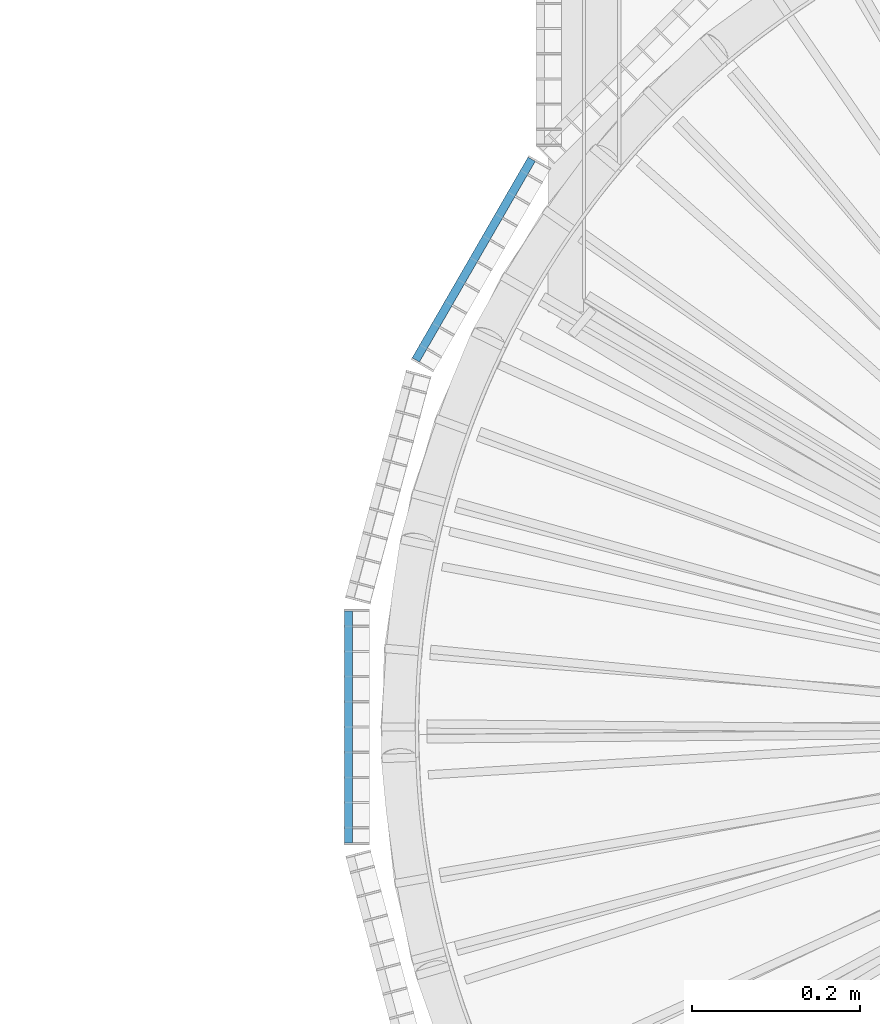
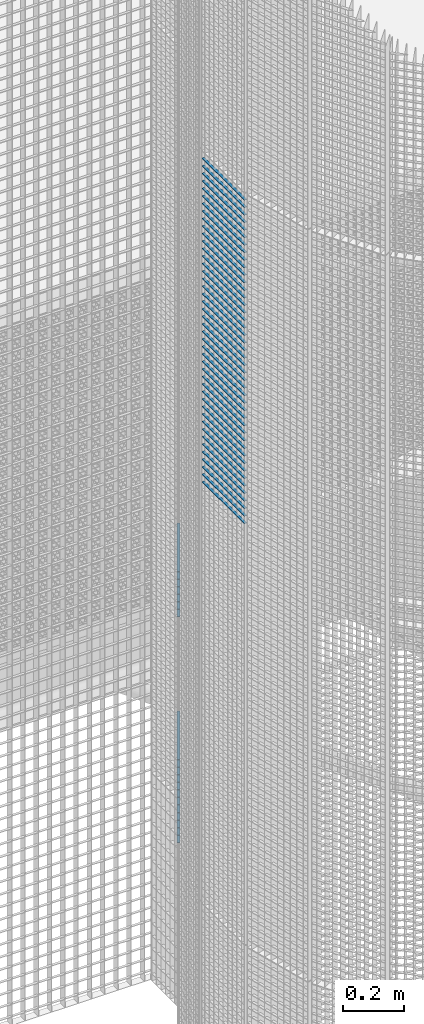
# One storey, part 204 of 1183: 63 beams, 2 elements without a shape of their own.
"""IFC2X3 building model written with IfcOpenShell, lengths in millimetres."""

from ifc_helpers import new_model, si_unit, frame, origin_with_axes, origin_2d_with_axis, place, context, subcontext, project, spatial, rectangle, extrude, material, type_object, element, aggregate, save


model = new_model("IFC2X3")

# Units and contexts
model_context = context("Model", 3, precision=1e-05, world=origin_with_axes())
body_context = subcontext(model_context, "Body", "Model", "MODEL_VIEW")
ifc_project = project(units=[si_unit("LENGTHUNIT", "METRE", prefix="MILLI"), si_unit("AREAUNIT", "SQUARE_METRE"), si_unit("VOLUMEUNIT", "CUBIC_METRE"), si_unit("MASSUNIT", "GRAM", prefix="KILO"), si_unit("TIMEUNIT", "SECOND"), si_unit("PLANEANGLEUNIT", "RADIAN"), si_unit("SOLIDANGLEUNIT", "STERADIAN"), si_unit("THERMODYNAMICTEMPERATUREUNIT", "DEGREE_CELSIUS"), si_unit("LUMINOUSINTENSITYUNIT", "LUMEN")], contexts=[model_context])

# Site, building, storey
site_placement = place(None, origin_with_axes())
site = spatial("IfcSite", under=ifc_project, at=site_placement, Name="Undefined", CompositionType="ELEMENT")
building_placement = place(site_placement, origin_with_axes())
building = spatial("IfcBuilding", under=site, at=building_placement, Name="Undefined", CompositionType="ELEMENT")
storey_placement = place(building_placement, origin_with_axes())
storey = spatial("IfcBuildingStorey", under=building, at=storey_placement, Name="Undefined", CompositionType="ELEMENT", Elevation=0.0)

# Assembly, beams
assembly_1_placement = place(storey_placement, origin_with_axes())
assembly_1 = element("IfcElementAssembly", 1, at=assembly_1_placement, inside=storey, Name="BORDURE", AssemblyPlace="NOTDEFINED", PredefinedType="NOTDEFINED")
ifc_material = material(Name="STEEL/S235JR")
beam_type = type_object("IfcBeamType", Name="PL2*10", PredefinedType="NOTDEFINED")
beam_1_placement = place(assembly_1_placement, frame((-895.303964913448, 676.248044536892, 6930.0), z_axis=(-0.866025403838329, 0.499999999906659, 0.0), x_axis=(-0.49999999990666, -0.866025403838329, 0.0)))
beam_1 = element("IfcBeam", 2, at=beam_1_placement, type_object=beam_type, material=ifc_material, Name="ENTRETOISE", context=body_context, shape_type="SweptSolid", body=[
    extrude(rectangle(XDim=2.0, YDim=10.0, at=origin_2d_with_axis()), frame((275.999999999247, 9.09494701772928e-13, 1.53210777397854e-14), z_axis=(-1.0, 0.0, 0.0), x_axis=(0.0, -1.0, 0.0)), (0.0, 0.0, 1.0), 276.0),
])
beam_2_placement = place(assembly_1_placement, frame((-895.30396491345, 676.248044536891, 6360.0), z_axis=(-0.866025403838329, 0.499999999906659, 0.0), x_axis=(-0.49999999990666, -0.866025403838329, 0.0)))
beam_2 = element("IfcBeam", 3, at=beam_2_placement, type_object=beam_type, material=ifc_material, Name="ENTRETOISE", context=body_context, shape_type="SweptSolid", body=[
    extrude(rectangle(XDim=2.0, YDim=10.0, at=origin_2d_with_axis()), frame((275.999999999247, 9.09494701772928e-13, 1.53210777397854e-14), z_axis=(-1.0, 0.0, 0.0), x_axis=(0.0, -1.0, 0.0)), (0.0, 0.0, 1.0), 276.0),
])
beam_3_placement = place(assembly_1_placement, frame((-895.303964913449, 676.248044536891, 6330.0), z_axis=(-0.866025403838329, 0.499999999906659, 0.0), x_axis=(-0.49999999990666, -0.866025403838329, 0.0)))
beam_3 = element("IfcBeam", 4, at=beam_3_placement, type_object=beam_type, material=ifc_material, Name="ENTRETOISE", context=body_context, shape_type="SweptSolid", body=[
    extrude(rectangle(XDim=2.0, YDim=10.0, at=origin_2d_with_axis()), frame((275.999999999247, 9.09494701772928e-13, 1.53210777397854e-14), z_axis=(-1.0, 0.0, 0.0), x_axis=(0.0, -1.0, 0.0)), (0.0, 0.0, 1.0), 276.0),
])
beam_4_placement = place(assembly_1_placement, frame((-895.303964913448, 676.248044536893, 6960.0), z_axis=(-0.866025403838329, 0.499999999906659, 0.0), x_axis=(-0.49999999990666, -0.866025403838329, 0.0)))
beam_4 = element("IfcBeam", 5, at=beam_4_placement, type_object=beam_type, material=ifc_material, Name="ENTRETOISE", context=body_context, shape_type="SweptSolid", body=[
    extrude(rectangle(XDim=2.0, YDim=10.0, at=origin_2d_with_axis()), frame((275.999999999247, 9.09494701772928e-13, 1.53210777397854e-14), z_axis=(-1.0, 0.0, 0.0), x_axis=(0.0, -1.0, 0.0)), (0.0, 0.0, 1.0), 276.0),
])
beam_5_placement = place(assembly_1_placement, frame((-895.303964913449, 676.248044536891, 6300.0), z_axis=(-0.866025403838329, 0.499999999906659, 0.0), x_axis=(-0.49999999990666, -0.866025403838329, 0.0)))
beam_5 = element("IfcBeam", 6, at=beam_5_placement, type_object=beam_type, material=ifc_material, Name="ENTRETOISE", context=body_context, shape_type="SweptSolid", body=[
    extrude(rectangle(XDim=2.0, YDim=10.0, at=origin_2d_with_axis()), frame((275.999999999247, 9.09494701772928e-13, 1.53210777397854e-14), z_axis=(-1.0, 0.0, 0.0), x_axis=(0.0, -1.0, 0.0)), (0.0, 0.0, 1.0), 276.0),
])
beam_6_placement = place(assembly_1_placement, frame((-895.303964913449, 676.248044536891, 6270.0), z_axis=(-0.866025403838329, 0.499999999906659, 0.0), x_axis=(-0.49999999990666, -0.866025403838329, 0.0)))
beam_6 = element("IfcBeam", 7, at=beam_6_placement, type_object=beam_type, material=ifc_material, Name="ENTRETOISE", context=body_context, shape_type="SweptSolid", body=[
    extrude(rectangle(XDim=2.0, YDim=10.0, at=origin_2d_with_axis()), frame((275.999999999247, 9.09494701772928e-13, 1.53210777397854e-14), z_axis=(-1.0, 0.0, 0.0), x_axis=(0.0, -1.0, 0.0)), (0.0, 0.0, 1.0), 276.0),
])
beam_7_placement = place(assembly_1_placement, frame((-895.303964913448, 676.248044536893, 6990.0), z_axis=(-0.866025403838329, 0.499999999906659, 0.0), x_axis=(-0.49999999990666, -0.866025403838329, 0.0)))
beam_7 = element("IfcBeam", 8, at=beam_7_placement, type_object=beam_type, material=ifc_material, Name="ENTRETOISE", context=body_context, shape_type="SweptSolid", body=[
    extrude(rectangle(XDim=2.0, YDim=10.0, at=origin_2d_with_axis()), frame((275.999999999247, 9.09494701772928e-13, 1.53210777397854e-14), z_axis=(-1.0, 0.0, 0.0), x_axis=(0.0, -1.0, 0.0)), (0.0, 0.0, 1.0), 276.0),
])
beam_8_placement = place(assembly_1_placement, frame((-895.303964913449, 676.24804453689, 6240.0), z_axis=(-0.866025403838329, 0.499999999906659, 0.0), x_axis=(-0.49999999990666, -0.866025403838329, 0.0)))
beam_8 = element("IfcBeam", 9, at=beam_8_placement, type_object=beam_type, material=ifc_material, Name="ENTRETOISE", context=body_context, shape_type="SweptSolid", body=[
    extrude(rectangle(XDim=2.0, YDim=10.0, at=origin_2d_with_axis()), frame((275.999999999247, 9.09494701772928e-13, 1.53210777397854e-14), z_axis=(-1.0, 0.0, 0.0), x_axis=(0.0, -1.0, 0.0)), (0.0, 0.0, 1.0), 276.0),
])
beam_9_placement = place(assembly_1_placement, frame((-895.303964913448, 676.248044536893, 7020.0), z_axis=(-0.866025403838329, 0.499999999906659, 0.0), x_axis=(-0.49999999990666, -0.866025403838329, 0.0)))
beam_9 = element("IfcBeam", 10, at=beam_9_placement, type_object=beam_type, material=ifc_material, Name="ENTRETOISE", context=body_context, shape_type="SweptSolid", body=[
    extrude(rectangle(XDim=2.0, YDim=10.0, at=origin_2d_with_axis()), frame((275.999999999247, 9.09494701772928e-13, 1.53210777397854e-14), z_axis=(-1.0, 0.0, 0.0), x_axis=(0.0, -1.0, 0.0)), (0.0, 0.0, 1.0), 276.0),
])
beam_10_placement = place(assembly_1_placement, frame((-895.303964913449, 676.24804453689, 6210.0), z_axis=(-0.866025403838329, 0.499999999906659, 0.0), x_axis=(-0.49999999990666, -0.866025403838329, 0.0)))
beam_10 = element("IfcBeam", 11, at=beam_10_placement, type_object=beam_type, material=ifc_material, Name="ENTRETOISE", context=body_context, shape_type="SweptSolid", body=[
    extrude(rectangle(XDim=2.0, YDim=10.0, at=origin_2d_with_axis()), frame((275.999999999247, 9.09494701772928e-13, 1.53210777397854e-14), z_axis=(-1.0, 0.0, 0.0), x_axis=(0.0, -1.0, 0.0)), (0.0, 0.0, 1.0), 276.0),
])
beam_11_placement = place(assembly_1_placement, frame((-895.30396491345, 676.24804453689, 6180.0), z_axis=(-0.866025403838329, 0.499999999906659, 0.0), x_axis=(-0.49999999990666, -0.866025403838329, 0.0)))
beam_11 = element("IfcBeam", 12, at=beam_11_placement, type_object=beam_type, material=ifc_material, Name="ENTRETOISE", context=body_context, shape_type="SweptSolid", body=[
    extrude(rectangle(XDim=2.0, YDim=10.0, at=origin_2d_with_axis()), frame((275.999999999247, 9.09494701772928e-13, 1.53210777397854e-14), z_axis=(-1.0, 0.0, 0.0), x_axis=(0.0, -1.0, 0.0)), (0.0, 0.0, 1.0), 276.0),
])
beam_12_placement = place(assembly_1_placement, frame((-895.303964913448, 676.248044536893, 7050.0), z_axis=(-0.866025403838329, 0.499999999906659, 0.0), x_axis=(-0.49999999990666, -0.866025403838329, 0.0)))
beam_12 = element("IfcBeam", 13, at=beam_12_placement, type_object=beam_type, material=ifc_material, Name="ENTRETOISE", context=body_context, shape_type="SweptSolid", body=[
    extrude(rectangle(XDim=2.0, YDim=10.0, at=origin_2d_with_axis()), frame((275.999999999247, 9.09494701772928e-13, 1.53210777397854e-14), z_axis=(-1.0, 0.0, 0.0), x_axis=(0.0, -1.0, 0.0)), (0.0, 0.0, 1.0), 276.0),
])
beam_13_placement = place(assembly_1_placement, frame((-895.30396491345, 676.24804453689, 6150.0), z_axis=(-0.866025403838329, 0.499999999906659, 0.0), x_axis=(-0.49999999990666, -0.866025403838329, 0.0)))
beam_13 = element("IfcBeam", 14, at=beam_13_placement, type_object=beam_type, material=ifc_material, Name="ENTRETOISE", context=body_context, shape_type="SweptSolid", body=[
    extrude(rectangle(XDim=2.0, YDim=10.0, at=origin_2d_with_axis()), frame((275.999999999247, 9.09494701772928e-13, 1.53210777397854e-14), z_axis=(-1.0, 0.0, 0.0), x_axis=(0.0, -1.0, 0.0)), (0.0, 0.0, 1.0), 276.0),
])
beam_14_placement = place(assembly_1_placement, frame((-895.30396491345, 676.24804453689, 6120.0), z_axis=(-0.866025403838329, 0.499999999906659, 0.0), x_axis=(-0.49999999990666, -0.866025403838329, 0.0)))
beam_14 = element("IfcBeam", 15, at=beam_14_placement, type_object=beam_type, material=ifc_material, Name="ENTRETOISE", context=body_context, shape_type="SweptSolid", body=[
    extrude(rectangle(XDim=2.0, YDim=10.0, at=origin_2d_with_axis()), frame((275.999999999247, 9.09494701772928e-13, 1.53210777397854e-14), z_axis=(-1.0, 0.0, 0.0), x_axis=(0.0, -1.0, 0.0)), (0.0, 0.0, 1.0), 276.0),
])
beam_15_placement = place(assembly_1_placement, frame((-895.303964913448, 676.248044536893, 7080.0), z_axis=(-0.866025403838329, 0.499999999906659, 0.0), x_axis=(-0.49999999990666, -0.866025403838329, 0.0)))
beam_15 = element("IfcBeam", 16, at=beam_15_placement, type_object=beam_type, material=ifc_material, Name="ENTRETOISE", context=body_context, shape_type="SweptSolid", body=[
    extrude(rectangle(XDim=2.0, YDim=10.0, at=origin_2d_with_axis()), frame((275.999999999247, 9.09494701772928e-13, 1.53210777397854e-14), z_axis=(-1.0, 0.0, 0.0), x_axis=(0.0, -1.0, 0.0)), (0.0, 0.0, 1.0), 276.0),
])
beam_16_placement = place(assembly_1_placement, frame((-895.30396491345, 676.24804453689, 6090.0), z_axis=(-0.866025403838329, 0.499999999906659, 0.0), x_axis=(-0.49999999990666, -0.866025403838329, 0.0)))
beam_16 = element("IfcBeam", 17, at=beam_16_placement, type_object=beam_type, material=ifc_material, Name="ENTRETOISE", context=body_context, shape_type="SweptSolid", body=[
    extrude(rectangle(XDim=2.0, YDim=10.0, at=origin_2d_with_axis()), frame((275.999999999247, 9.09494701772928e-13, 1.53210777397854e-14), z_axis=(-1.0, 0.0, 0.0), x_axis=(0.0, -1.0, 0.0)), (0.0, 0.0, 1.0), 276.0),
])
beam_17_placement = place(assembly_1_placement, frame((-895.30396491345, 676.24804453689, 6060.0), z_axis=(-0.866025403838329, 0.499999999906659, 0.0), x_axis=(-0.49999999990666, -0.866025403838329, 0.0)))
beam_17 = element("IfcBeam", 18, at=beam_17_placement, type_object=beam_type, material=ifc_material, Name="ENTRETOISE", context=body_context, shape_type="SweptSolid", body=[
    extrude(rectangle(XDim=2.0, YDim=10.0, at=origin_2d_with_axis()), frame((275.999999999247, 9.09494701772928e-13, 1.53210777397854e-14), z_axis=(-1.0, 0.0, 0.0), x_axis=(0.0, -1.0, 0.0)), (0.0, 0.0, 1.0), 276.0),
])
beam_18_placement = place(assembly_1_placement, frame((-895.303964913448, 676.248044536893, 7110.0), z_axis=(-0.866025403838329, 0.499999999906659, 0.0), x_axis=(-0.49999999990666, -0.866025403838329, 0.0)))
beam_18 = element("IfcBeam", 19, at=beam_18_placement, type_object=beam_type, material=ifc_material, Name="ENTRETOISE", context=body_context, shape_type="SweptSolid", body=[
    extrude(rectangle(XDim=2.0, YDim=10.0, at=origin_2d_with_axis()), frame((275.999999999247, 9.09494701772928e-13, 1.53210777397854e-14), z_axis=(-1.0, 0.0, 0.0), x_axis=(0.0, -1.0, 0.0)), (0.0, 0.0, 1.0), 276.0),
])
beam_19_placement = place(assembly_1_placement, frame((-895.30396491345, 676.248044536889, 6030.0), z_axis=(-0.866025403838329, 0.499999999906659, 0.0), x_axis=(-0.49999999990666, -0.866025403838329, 0.0)))
beam_19 = element("IfcBeam", 20, at=beam_19_placement, type_object=beam_type, material=ifc_material, Name="ENTRETOISE", context=body_context, shape_type="SweptSolid", body=[
    extrude(rectangle(XDim=2.0, YDim=10.0, at=origin_2d_with_axis()), frame((275.999999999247, 9.09494701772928e-13, 1.53210777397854e-14), z_axis=(-1.0, 0.0, 0.0), x_axis=(0.0, -1.0, 0.0)), (0.0, 0.0, 1.0), 276.0),
])
aggregate(assembly_1, [beam_1, beam_2, beam_3, beam_4, beam_5, beam_6, beam_7, beam_8, beam_9, beam_10, beam_11, beam_12, beam_13, beam_14, beam_15, beam_16, beam_17, beam_18, beam_19])

assembly_2_placement = place(storey_placement, origin_with_axes())
assembly_2 = element("IfcElementAssembly", 21, at=assembly_2_placement, inside=storey, Name="BORDURE", AssemblyPlace="NOTDEFINED", PredefinedType="NOTDEFINED")
beam_20_placement = place(assembly_2_placement, frame((-1113.47999999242, 137.996003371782, 8970.0), z_axis=(-1.0, 0.0, 0.0), x_axis=(0.0, -1.0, 0.0)))
beam_20 = element("IfcBeam", 22, at=beam_20_placement, type_object=beam_type, material=ifc_material, Name="ENTRETOISE", context=body_context, shape_type="SweptSolid", body=[
    extrude(rectangle(XDim=2.0, YDim=10.0, at=origin_2d_with_axis()), frame((275.999999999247, 9.09494701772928e-13, 1.53210777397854e-14), z_axis=(-1.0, 0.0, 0.0), x_axis=(0.0, -1.0, 0.0)), (0.0, 0.0, 1.0), 276.0),
])
beam_21_placement = place(assembly_2_placement, frame((-1113.47999999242, 137.996003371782, 8940.0), z_axis=(-1.0, 0.0, 0.0), x_axis=(0.0, -1.0, 0.0)))
beam_21 = element("IfcBeam", 23, at=beam_21_placement, type_object=beam_type, material=ifc_material, Name="ENTRETOISE", context=body_context, shape_type="SweptSolid", body=[
    extrude(rectangle(XDim=2.0, YDim=10.0, at=origin_2d_with_axis()), frame((275.999999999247, 9.09494701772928e-13, 1.53210777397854e-14), z_axis=(-1.0, 0.0, 0.0), x_axis=(0.0, -1.0, 0.0)), (0.0, 0.0, 1.0), 276.0),
])
beam_22_placement = place(assembly_2_placement, frame((-1113.47999999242, 137.996003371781, 8910.0), z_axis=(-1.0, 0.0, 0.0), x_axis=(0.0, -1.0, 0.0)))
beam_22 = element("IfcBeam", 24, at=beam_22_placement, type_object=beam_type, material=ifc_material, Name="ENTRETOISE", context=body_context, shape_type="SweptSolid", body=[
    extrude(rectangle(XDim=2.0, YDim=10.0, at=origin_2d_with_axis()), frame((275.999999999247, 9.09494701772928e-13, 1.53210777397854e-14), z_axis=(-1.0, 0.0, 0.0), x_axis=(0.0, -1.0, 0.0)), (0.0, 0.0, 1.0), 276.0),
])
beam_23_placement = place(assembly_2_placement, frame((-1113.47999999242, 137.996003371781, 8880.0), z_axis=(-1.0, 0.0, 0.0), x_axis=(0.0, -1.0, 0.0)))
beam_23 = element("IfcBeam", 25, at=beam_23_placement, type_object=beam_type, material=ifc_material, Name="ENTRETOISE", context=body_context, shape_type="SweptSolid", body=[
    extrude(rectangle(XDim=2.0, YDim=10.0, at=origin_2d_with_axis()), frame((275.999999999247, 9.09494701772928e-13, 1.53210777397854e-14), z_axis=(-1.0, 0.0, 0.0), x_axis=(0.0, -1.0, 0.0)), (0.0, 0.0, 1.0), 276.0),
])
beam_24_placement = place(assembly_2_placement, frame((-1113.47999999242, 137.996003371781, 8850.0), z_axis=(-1.0, 0.0, 0.0), x_axis=(0.0, -1.0, 0.0)))
beam_24 = element("IfcBeam", 26, at=beam_24_placement, type_object=beam_type, material=ifc_material, Name="ENTRETOISE", context=body_context, shape_type="SweptSolid", body=[
    extrude(rectangle(XDim=2.0, YDim=10.0, at=origin_2d_with_axis()), frame((275.999999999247, 9.09494701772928e-13, 1.53210777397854e-14), z_axis=(-1.0, 0.0, 0.0), x_axis=(0.0, -1.0, 0.0)), (0.0, 0.0, 1.0), 276.0),
])
beam_25_placement = place(assembly_2_placement, frame((-1113.47999999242, 137.996003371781, 8820.0), z_axis=(-1.0, 0.0, 0.0), x_axis=(0.0, -1.0, 0.0)))
beam_25 = element("IfcBeam", 27, at=beam_25_placement, type_object=beam_type, material=ifc_material, Name="ENTRETOISE", context=body_context, shape_type="SweptSolid", body=[
    extrude(rectangle(XDim=2.0, YDim=10.0, at=origin_2d_with_axis()), frame((275.999999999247, 9.09494701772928e-13, 1.53210777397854e-14), z_axis=(-1.0, 0.0, 0.0), x_axis=(0.0, -1.0, 0.0)), (0.0, 0.0, 1.0), 276.0),
])
beam_26_placement = place(assembly_2_placement, frame((-1113.47999999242, 137.996003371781, 8790.0), z_axis=(-1.0, 0.0, 0.0), x_axis=(0.0, -1.0, 0.0)))
beam_26 = element("IfcBeam", 28, at=beam_26_placement, type_object=beam_type, material=ifc_material, Name="ENTRETOISE", context=body_context, shape_type="SweptSolid", body=[
    extrude(rectangle(XDim=2.0, YDim=10.0, at=origin_2d_with_axis()), frame((275.999999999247, 9.09494701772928e-13, 1.53210777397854e-14), z_axis=(-1.0, 0.0, 0.0), x_axis=(0.0, -1.0, 0.0)), (0.0, 0.0, 1.0), 276.0),
])
beam_27_placement = place(assembly_2_placement, frame((-1113.47999999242, 137.996003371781, 8760.0), z_axis=(-1.0, 0.0, 0.0), x_axis=(0.0, -1.0, 0.0)))
beam_27 = element("IfcBeam", 29, at=beam_27_placement, type_object=beam_type, material=ifc_material, Name="ENTRETOISE", context=body_context, shape_type="SweptSolid", body=[
    extrude(rectangle(XDim=2.0, YDim=10.0, at=origin_2d_with_axis()), frame((275.999999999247, 9.09494701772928e-13, 1.53210777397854e-14), z_axis=(-1.0, 0.0, 0.0), x_axis=(0.0, -1.0, 0.0)), (0.0, 0.0, 1.0), 276.0),
])
beam_28_placement = place(assembly_2_placement, frame((-1113.47999999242, 137.996003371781, 8730.0), z_axis=(-1.0, 0.0, 0.0), x_axis=(0.0, -1.0, 0.0)))
beam_28 = element("IfcBeam", 30, at=beam_28_placement, type_object=beam_type, material=ifc_material, Name="ENTRETOISE", context=body_context, shape_type="SweptSolid", body=[
    extrude(rectangle(XDim=2.0, YDim=10.0, at=origin_2d_with_axis()), frame((275.999999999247, 9.09494701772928e-13, 1.53210777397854e-14), z_axis=(-1.0, 0.0, 0.0), x_axis=(0.0, -1.0, 0.0)), (0.0, 0.0, 1.0), 276.0),
])
beam_29_placement = place(assembly_2_placement, frame((-1113.47999999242, 137.996003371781, 8700.0), z_axis=(-1.0, 0.0, 0.0), x_axis=(0.0, -1.0, 0.0)))
beam_29 = element("IfcBeam", 31, at=beam_29_placement, type_object=beam_type, material=ifc_material, Name="ENTRETOISE", context=body_context, shape_type="SweptSolid", body=[
    extrude(rectangle(XDim=2.0, YDim=10.0, at=origin_2d_with_axis()), frame((275.999999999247, 9.09494701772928e-13, 1.53210777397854e-14), z_axis=(-1.0, 0.0, 0.0), x_axis=(0.0, -1.0, 0.0)), (0.0, 0.0, 1.0), 276.0),
])
beam_30_placement = place(assembly_2_placement, frame((-1113.47999999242, 137.996003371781, 8670.0), z_axis=(-1.0, 0.0, 0.0), x_axis=(0.0, -1.0, 0.0)))
beam_30 = element("IfcBeam", 32, at=beam_30_placement, type_object=beam_type, material=ifc_material, Name="ENTRETOISE", context=body_context, shape_type="SweptSolid", body=[
    extrude(rectangle(XDim=2.0, YDim=10.0, at=origin_2d_with_axis()), frame((275.999999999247, 9.09494701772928e-13, 1.53210777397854e-14), z_axis=(-1.0, 0.0, 0.0), x_axis=(0.0, -1.0, 0.0)), (0.0, 0.0, 1.0), 276.0),
])
beam_31_placement = place(assembly_2_placement, frame((-1113.47999999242, 137.99600337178, 8640.0), z_axis=(-1.0, 0.0, 0.0), x_axis=(0.0, -1.0, 0.0)))
beam_31 = element("IfcBeam", 33, at=beam_31_placement, type_object=beam_type, material=ifc_material, Name="ENTRETOISE", context=body_context, shape_type="SweptSolid", body=[
    extrude(rectangle(XDim=2.0, YDim=10.0, at=origin_2d_with_axis()), frame((275.999999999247, 9.09494701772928e-13, 1.53210777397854e-14), z_axis=(-1.0, 0.0, 0.0), x_axis=(0.0, -1.0, 0.0)), (0.0, 0.0, 1.0), 276.0),
])
beam_32_placement = place(assembly_2_placement, frame((-1113.47999999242, 137.99600337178, 8610.0), z_axis=(-1.0, 0.0, 0.0), x_axis=(0.0, -1.0, 0.0)))
beam_32 = element("IfcBeam", 34, at=beam_32_placement, type_object=beam_type, material=ifc_material, Name="ENTRETOISE", context=body_context, shape_type="SweptSolid", body=[
    extrude(rectangle(XDim=2.0, YDim=10.0, at=origin_2d_with_axis()), frame((275.999999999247, 9.09494701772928e-13, 1.53210777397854e-14), z_axis=(-1.0, 0.0, 0.0), x_axis=(0.0, -1.0, 0.0)), (0.0, 0.0, 1.0), 276.0),
])
beam_33_placement = place(assembly_2_placement, frame((-1113.47999999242, 137.99600337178, 8580.0), z_axis=(-1.0, 0.0, 0.0), x_axis=(0.0, -1.0, 0.0)))
beam_33 = element("IfcBeam", 35, at=beam_33_placement, type_object=beam_type, material=ifc_material, Name="ENTRETOISE", context=body_context, shape_type="SweptSolid", body=[
    extrude(rectangle(XDim=2.0, YDim=10.0, at=origin_2d_with_axis()), frame((275.999999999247, 9.09494701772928e-13, 1.53210777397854e-14), z_axis=(-1.0, 0.0, 0.0), x_axis=(0.0, -1.0, 0.0)), (0.0, 0.0, 1.0), 276.0),
])
beam_34_placement = place(assembly_2_placement, frame((-1113.47999999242, 137.99600337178, 8550.0), z_axis=(-1.0, 0.0, 0.0), x_axis=(0.0, -1.0, 0.0)))
beam_34 = element("IfcBeam", 36, at=beam_34_placement, type_object=beam_type, material=ifc_material, Name="ENTRETOISE", context=body_context, shape_type="SweptSolid", body=[
    extrude(rectangle(XDim=2.0, YDim=10.0, at=origin_2d_with_axis()), frame((275.999999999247, 9.09494701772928e-13, 1.53210777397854e-14), z_axis=(-1.0, 0.0, 0.0), x_axis=(0.0, -1.0, 0.0)), (0.0, 0.0, 1.0), 276.0),
])
beam_35_placement = place(assembly_2_placement, frame((-1113.47999999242, 137.99600337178, 8520.0), z_axis=(-1.0, 0.0, 0.0), x_axis=(0.0, -1.0, 0.0)))
beam_35 = element("IfcBeam", 37, at=beam_35_placement, type_object=beam_type, material=ifc_material, Name="ENTRETOISE", context=body_context, shape_type="SweptSolid", body=[
    extrude(rectangle(XDim=2.0, YDim=10.0, at=origin_2d_with_axis()), frame((275.999999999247, 9.09494701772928e-13, 1.53210777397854e-14), z_axis=(-1.0, 0.0, 0.0), x_axis=(0.0, -1.0, 0.0)), (0.0, 0.0, 1.0), 276.0),
])
beam_36_placement = place(assembly_2_placement, frame((-1113.47999999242, 137.99600337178, 8490.0), z_axis=(-1.0, 0.0, 0.0), x_axis=(0.0, -1.0, 0.0)))
beam_36 = element("IfcBeam", 38, at=beam_36_placement, type_object=beam_type, material=ifc_material, Name="ENTRETOISE", context=body_context, shape_type="SweptSolid", body=[
    extrude(rectangle(XDim=2.0, YDim=10.0, at=origin_2d_with_axis()), frame((275.999999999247, 9.09494701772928e-13, 1.53210777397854e-14), z_axis=(-1.0, 0.0, 0.0), x_axis=(0.0, -1.0, 0.0)), (0.0, 0.0, 1.0), 276.0),
])
beam_37_placement = place(assembly_2_placement, frame((-1113.47999999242, 137.99600337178, 8460.0), z_axis=(-1.0, 0.0, 0.0), x_axis=(0.0, -1.0, 0.0)))
beam_37 = element("IfcBeam", 39, at=beam_37_placement, type_object=beam_type, material=ifc_material, Name="ENTRETOISE", context=body_context, shape_type="SweptSolid", body=[
    extrude(rectangle(XDim=2.0, YDim=10.0, at=origin_2d_with_axis()), frame((275.999999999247, 9.09494701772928e-13, 1.53210777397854e-14), z_axis=(-1.0, 0.0, 0.0), x_axis=(0.0, -1.0, 0.0)), (0.0, 0.0, 1.0), 276.0),
])
beam_38_placement = place(assembly_2_placement, frame((-1113.47999999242, 137.99600337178, 8430.0), z_axis=(-1.0, 0.0, 0.0), x_axis=(0.0, -1.0, 0.0)))
beam_38 = element("IfcBeam", 40, at=beam_38_placement, type_object=beam_type, material=ifc_material, Name="ENTRETOISE", context=body_context, shape_type="SweptSolid", body=[
    extrude(rectangle(XDim=2.0, YDim=10.0, at=origin_2d_with_axis()), frame((275.999999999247, 9.09494701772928e-13, 1.53210777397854e-14), z_axis=(-1.0, 0.0, 0.0), x_axis=(0.0, -1.0, 0.0)), (0.0, 0.0, 1.0), 276.0),
])
beam_39_placement = place(assembly_2_placement, frame((-1113.47999999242, 137.99600337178, 8400.0), z_axis=(-1.0, 0.0, 0.0), x_axis=(0.0, -1.0, 0.0)))
beam_39 = element("IfcBeam", 41, at=beam_39_placement, type_object=beam_type, material=ifc_material, Name="ENTRETOISE", context=body_context, shape_type="SweptSolid", body=[
    extrude(rectangle(XDim=2.0, YDim=10.0, at=origin_2d_with_axis()), frame((275.999999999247, 9.09494701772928e-13, 1.53210777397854e-14), z_axis=(-1.0, 0.0, 0.0), x_axis=(0.0, -1.0, 0.0)), (0.0, 0.0, 1.0), 276.0),
])
beam_40_placement = place(assembly_2_placement, frame((-1113.47999999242, 137.996003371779, 8370.0), z_axis=(-1.0, 0.0, 0.0), x_axis=(0.0, -1.0, 0.0)))
beam_40 = element("IfcBeam", 42, at=beam_40_placement, type_object=beam_type, material=ifc_material, Name="ENTRETOISE", context=body_context, shape_type="SweptSolid", body=[
    extrude(rectangle(XDim=2.0, YDim=10.0, at=origin_2d_with_axis()), frame((275.999999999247, 9.09494701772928e-13, 1.53210777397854e-14), z_axis=(-1.0, 0.0, 0.0), x_axis=(0.0, -1.0, 0.0)), (0.0, 0.0, 1.0), 276.0),
])
beam_41_placement = place(assembly_2_placement, frame((-1113.47999999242, 137.996003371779, 8340.0), z_axis=(-1.0, 0.0, 0.0), x_axis=(0.0, -1.0, 0.0)))
beam_41 = element("IfcBeam", 43, at=beam_41_placement, type_object=beam_type, material=ifc_material, Name="ENTRETOISE", context=body_context, shape_type="SweptSolid", body=[
    extrude(rectangle(XDim=2.0, YDim=10.0, at=origin_2d_with_axis()), frame((275.999999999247, 9.09494701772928e-13, 1.53210777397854e-14), z_axis=(-1.0, 0.0, 0.0), x_axis=(0.0, -1.0, 0.0)), (0.0, 0.0, 1.0), 276.0),
])
beam_42_placement = place(assembly_2_placement, frame((-1113.47999999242, 137.996003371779, 8310.0), z_axis=(-1.0, 0.0, 0.0), x_axis=(0.0, -1.0, 0.0)))
beam_42 = element("IfcBeam", 44, at=beam_42_placement, type_object=beam_type, material=ifc_material, Name="ENTRETOISE", context=body_context, shape_type="SweptSolid", body=[
    extrude(rectangle(XDim=2.0, YDim=10.0, at=origin_2d_with_axis()), frame((275.999999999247, 9.09494701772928e-13, 1.53210777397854e-14), z_axis=(-1.0, 0.0, 0.0), x_axis=(0.0, -1.0, 0.0)), (0.0, 0.0, 1.0), 276.0),
])
beam_43_placement = place(assembly_2_placement, frame((-1113.47999999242, 137.996003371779, 8280.0), z_axis=(-1.0, 0.0, 0.0), x_axis=(0.0, -1.0, 0.0)))
beam_43 = element("IfcBeam", 45, at=beam_43_placement, type_object=beam_type, material=ifc_material, Name="ENTRETOISE", context=body_context, shape_type="SweptSolid", body=[
    extrude(rectangle(XDim=2.0, YDim=10.0, at=origin_2d_with_axis()), frame((275.999999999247, 9.09494701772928e-13, 1.53210777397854e-14), z_axis=(-1.0, 0.0, 0.0), x_axis=(0.0, -1.0, 0.0)), (0.0, 0.0, 1.0), 276.0),
])
beam_44_placement = place(assembly_2_placement, frame((-1113.47999999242, 137.996003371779, 8250.0), z_axis=(-1.0, 0.0, 0.0), x_axis=(0.0, -1.0, 0.0)))
beam_44 = element("IfcBeam", 46, at=beam_44_placement, type_object=beam_type, material=ifc_material, Name="ENTRETOISE", context=body_context, shape_type="SweptSolid", body=[
    extrude(rectangle(XDim=2.0, YDim=10.0, at=origin_2d_with_axis()), frame((275.999999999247, 9.09494701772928e-13, 1.53210777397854e-14), z_axis=(-1.0, 0.0, 0.0), x_axis=(0.0, -1.0, 0.0)), (0.0, 0.0, 1.0), 276.0),
])
beam_45_placement = place(assembly_2_placement, frame((-1113.47999999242, 137.996003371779, 8220.0), z_axis=(-1.0, 0.0, 0.0), x_axis=(0.0, -1.0, 0.0)))
beam_45 = element("IfcBeam", 47, at=beam_45_placement, type_object=beam_type, material=ifc_material, Name="ENTRETOISE", context=body_context, shape_type="SweptSolid", body=[
    extrude(rectangle(XDim=2.0, YDim=10.0, at=origin_2d_with_axis()), frame((275.999999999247, 9.09494701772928e-13, 1.53210777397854e-14), z_axis=(-1.0, 0.0, 0.0), x_axis=(0.0, -1.0, 0.0)), (0.0, 0.0, 1.0), 276.0),
])
beam_46_placement = place(assembly_2_placement, frame((-1113.47999999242, 137.996003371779, 8190.0), z_axis=(-1.0, 0.0, 0.0), x_axis=(0.0, -1.0, 0.0)))
beam_46 = element("IfcBeam", 48, at=beam_46_placement, type_object=beam_type, material=ifc_material, Name="ENTRETOISE", context=body_context, shape_type="SweptSolid", body=[
    extrude(rectangle(XDim=2.0, YDim=10.0, at=origin_2d_with_axis()), frame((275.999999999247, 9.09494701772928e-13, 1.53210777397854e-14), z_axis=(-1.0, 0.0, 0.0), x_axis=(0.0, -1.0, 0.0)), (0.0, 0.0, 1.0), 276.0),
])
beam_47_placement = place(assembly_2_placement, frame((-1113.47999999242, 137.996003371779, 8160.0), z_axis=(-1.0, 0.0, 0.0), x_axis=(0.0, -1.0, 0.0)))
beam_47 = element("IfcBeam", 49, at=beam_47_placement, type_object=beam_type, material=ifc_material, Name="ENTRETOISE", context=body_context, shape_type="SweptSolid", body=[
    extrude(rectangle(XDim=2.0, YDim=10.0, at=origin_2d_with_axis()), frame((275.999999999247, 9.09494701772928e-13, 1.53210777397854e-14), z_axis=(-1.0, 0.0, 0.0), x_axis=(0.0, -1.0, 0.0)), (0.0, 0.0, 1.0), 276.0),
])
beam_48_placement = place(assembly_2_placement, frame((-1113.47999999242, 137.996003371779, 8130.0), z_axis=(-1.0, 0.0, 0.0), x_axis=(0.0, -1.0, 0.0)))
beam_48 = element("IfcBeam", 50, at=beam_48_placement, type_object=beam_type, material=ifc_material, Name="ENTRETOISE", context=body_context, shape_type="SweptSolid", body=[
    extrude(rectangle(XDim=2.0, YDim=10.0, at=origin_2d_with_axis()), frame((275.999999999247, 9.09494701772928e-13, 1.53210777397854e-14), z_axis=(-1.0, 0.0, 0.0), x_axis=(0.0, -1.0, 0.0)), (0.0, 0.0, 1.0), 276.0),
])
beam_49_placement = place(assembly_2_placement, frame((-1113.47999999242, 137.996003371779, 8100.0), z_axis=(-1.0, 0.0, 0.0), x_axis=(0.0, -1.0, 0.0)))
beam_49 = element("IfcBeam", 51, at=beam_49_placement, type_object=beam_type, material=ifc_material, Name="ENTRETOISE", context=body_context, shape_type="SweptSolid", body=[
    extrude(rectangle(XDim=2.0, YDim=10.0, at=origin_2d_with_axis()), frame((275.999999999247, 9.09494701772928e-13, 1.53210777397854e-14), z_axis=(-1.0, 0.0, 0.0), x_axis=(0.0, -1.0, 0.0)), (0.0, 0.0, 1.0), 276.0),
])
beam_50_placement = place(assembly_2_placement, frame((-1113.47999999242, 137.996003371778, 8070.0), z_axis=(-1.0, 0.0, 0.0), x_axis=(0.0, -1.0, 0.0)))
beam_50 = element("IfcBeam", 52, at=beam_50_placement, type_object=beam_type, material=ifc_material, Name="ENTRETOISE", context=body_context, shape_type="SweptSolid", body=[
    extrude(rectangle(XDim=2.0, YDim=10.0, at=origin_2d_with_axis()), frame((275.999999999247, 9.09494701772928e-13, 1.53210777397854e-14), z_axis=(-1.0, 0.0, 0.0), x_axis=(0.0, -1.0, 0.0)), (0.0, 0.0, 1.0), 276.0),
])
beam_51_placement = place(assembly_2_placement, frame((-1113.47999999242, 137.996003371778, 8040.0), z_axis=(-1.0, 0.0, 0.0), x_axis=(0.0, -1.0, 0.0)))
beam_51 = element("IfcBeam", 53, at=beam_51_placement, type_object=beam_type, material=ifc_material, Name="ENTRETOISE", context=body_context, shape_type="SweptSolid", body=[
    extrude(rectangle(XDim=2.0, YDim=10.0, at=origin_2d_with_axis()), frame((275.999999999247, 9.09494701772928e-13, 1.53210777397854e-14), z_axis=(-1.0, 0.0, 0.0), x_axis=(0.0, -1.0, 0.0)), (0.0, 0.0, 1.0), 276.0),
])
beam_52_placement = place(assembly_2_placement, frame((-1113.47999999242, 137.996003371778, 8010.0), z_axis=(-1.0, 0.0, 0.0), x_axis=(0.0, -1.0, 0.0)))
beam_52 = element("IfcBeam", 54, at=beam_52_placement, type_object=beam_type, material=ifc_material, Name="ENTRETOISE", context=body_context, shape_type="SweptSolid", body=[
    extrude(rectangle(XDim=2.0, YDim=10.0, at=origin_2d_with_axis()), frame((275.999999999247, 9.09494701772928e-13, 1.53210777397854e-14), z_axis=(-1.0, 0.0, 0.0), x_axis=(0.0, -1.0, 0.0)), (0.0, 0.0, 1.0), 276.0),
])
beam_53_placement = place(assembly_2_placement, frame((-1113.47999999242, 137.996003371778, 7980.0), z_axis=(-1.0, 0.0, 0.0), x_axis=(0.0, -1.0, 0.0)))
beam_53 = element("IfcBeam", 55, at=beam_53_placement, type_object=beam_type, material=ifc_material, Name="ENTRETOISE", context=body_context, shape_type="SweptSolid", body=[
    extrude(rectangle(XDim=2.0, YDim=10.0, at=origin_2d_with_axis()), frame((275.999999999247, 9.09494701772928e-13, 1.53210777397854e-14), z_axis=(-1.0, 0.0, 0.0), x_axis=(0.0, -1.0, 0.0)), (0.0, 0.0, 1.0), 276.0),
])
beam_54_placement = place(assembly_2_placement, frame((-1113.47999999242, 137.996003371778, 7950.0), z_axis=(-1.0, 0.0, 0.0), x_axis=(0.0, -1.0, 0.0)))
beam_54 = element("IfcBeam", 56, at=beam_54_placement, type_object=beam_type, material=ifc_material, Name="ENTRETOISE", context=body_context, shape_type="SweptSolid", body=[
    extrude(rectangle(XDim=2.0, YDim=10.0, at=origin_2d_with_axis()), frame((275.999999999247, 9.09494701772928e-13, 1.53210777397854e-14), z_axis=(-1.0, 0.0, 0.0), x_axis=(0.0, -1.0, 0.0)), (0.0, 0.0, 1.0), 276.0),
])
beam_55_placement = place(assembly_2_placement, frame((-1113.47999999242, 137.996003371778, 7920.0), z_axis=(-1.0, 0.0, 0.0), x_axis=(0.0, -1.0, 0.0)))
beam_55 = element("IfcBeam", 57, at=beam_55_placement, type_object=beam_type, material=ifc_material, Name="ENTRETOISE", context=body_context, shape_type="SweptSolid", body=[
    extrude(rectangle(XDim=2.0, YDim=10.0, at=origin_2d_with_axis()), frame((275.999999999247, 9.09494701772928e-13, 1.53210777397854e-14), z_axis=(-1.0, 0.0, 0.0), x_axis=(0.0, -1.0, 0.0)), (0.0, 0.0, 1.0), 276.0),
])
beam_56_placement = place(assembly_2_placement, frame((-1113.47999999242, 137.996003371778, 7890.0), z_axis=(-1.0, 0.0, 0.0), x_axis=(0.0, -1.0, 0.0)))
beam_56 = element("IfcBeam", 58, at=beam_56_placement, type_object=beam_type, material=ifc_material, Name="ENTRETOISE", context=body_context, shape_type="SweptSolid", body=[
    extrude(rectangle(XDim=2.0, YDim=10.0, at=origin_2d_with_axis()), frame((275.999999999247, 9.09494701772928e-13, 1.53210777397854e-14), z_axis=(-1.0, 0.0, 0.0), x_axis=(0.0, -1.0, 0.0)), (0.0, 0.0, 1.0), 276.0),
])
beam_57_placement = place(assembly_2_placement, frame((-1113.47999999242, 137.996003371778, 7860.0), z_axis=(-1.0, 0.0, 0.0), x_axis=(0.0, -1.0, 0.0)))
beam_57 = element("IfcBeam", 59, at=beam_57_placement, type_object=beam_type, material=ifc_material, Name="ENTRETOISE", context=body_context, shape_type="SweptSolid", body=[
    extrude(rectangle(XDim=2.0, YDim=10.0, at=origin_2d_with_axis()), frame((275.999999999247, 9.09494701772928e-13, 1.53210777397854e-14), z_axis=(-1.0, 0.0, 0.0), x_axis=(0.0, -1.0, 0.0)), (0.0, 0.0, 1.0), 276.0),
])
beam_58_placement = place(assembly_2_placement, frame((-1113.47999999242, 137.996003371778, 7830.0), z_axis=(-1.0, 0.0, 0.0), x_axis=(0.0, -1.0, 0.0)))
beam_58 = element("IfcBeam", 60, at=beam_58_placement, type_object=beam_type, material=ifc_material, Name="ENTRETOISE", context=body_context, shape_type="SweptSolid", body=[
    extrude(rectangle(XDim=2.0, YDim=10.0, at=origin_2d_with_axis()), frame((275.999999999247, 9.09494701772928e-13, 1.53210777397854e-14), z_axis=(-1.0, 0.0, 0.0), x_axis=(0.0, -1.0, 0.0)), (0.0, 0.0, 1.0), 276.0),
])
beam_59_placement = place(assembly_2_placement, frame((-1113.47999999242, 137.996003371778, 7800.0), z_axis=(-1.0, 0.0, 0.0), x_axis=(0.0, -1.0, 0.0)))
beam_59 = element("IfcBeam", 61, at=beam_59_placement, type_object=beam_type, material=ifc_material, Name="ENTRETOISE", context=body_context, shape_type="SweptSolid", body=[
    extrude(rectangle(XDim=2.0, YDim=10.0, at=origin_2d_with_axis()), frame((275.999999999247, 9.09494701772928e-13, 1.53210777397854e-14), z_axis=(-1.0, 0.0, 0.0), x_axis=(0.0, -1.0, 0.0)), (0.0, 0.0, 1.0), 276.0),
])
beam_60_placement = place(assembly_2_placement, frame((-1113.47999999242, 137.996003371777, 7770.0), z_axis=(-1.0, 0.0, 0.0), x_axis=(0.0, -1.0, 0.0)))
beam_60 = element("IfcBeam", 62, at=beam_60_placement, type_object=beam_type, material=ifc_material, Name="ENTRETOISE", context=body_context, shape_type="SweptSolid", body=[
    extrude(rectangle(XDim=2.0, YDim=10.0, at=origin_2d_with_axis()), frame((275.999999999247, 9.09494701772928e-13, 1.53210777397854e-14), z_axis=(-1.0, 0.0, 0.0), x_axis=(0.0, -1.0, 0.0)), (0.0, 0.0, 1.0), 276.0),
])
beam_61_placement = place(assembly_2_placement, frame((-1113.47999999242, 137.996003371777, 7740.0), z_axis=(-1.0, 0.0, 0.0), x_axis=(0.0, -1.0, 0.0)))
beam_61 = element("IfcBeam", 63, at=beam_61_placement, type_object=beam_type, material=ifc_material, Name="ENTRETOISE", context=body_context, shape_type="SweptSolid", body=[
    extrude(rectangle(XDim=2.0, YDim=10.0, at=origin_2d_with_axis()), frame((275.999999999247, 9.09494701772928e-13, 1.53210777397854e-14), z_axis=(-1.0, 0.0, 0.0), x_axis=(0.0, -1.0, 0.0)), (0.0, 0.0, 1.0), 276.0),
])
beam_62_placement = place(assembly_2_placement, frame((-1113.47999999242, 137.996003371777, 7710.0), z_axis=(-1.0, 0.0, 0.0), x_axis=(0.0, -1.0, 0.0)))
beam_62 = element("IfcBeam", 64, at=beam_62_placement, type_object=beam_type, material=ifc_material, Name="ENTRETOISE", context=body_context, shape_type="SweptSolid", body=[
    extrude(rectangle(XDim=2.0, YDim=10.0, at=origin_2d_with_axis()), frame((275.999999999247, 9.09494701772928e-13, 1.53210777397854e-14), z_axis=(-1.0, 0.0, 0.0), x_axis=(0.0, -1.0, 0.0)), (0.0, 0.0, 1.0), 276.0),
])
beam_63_placement = place(assembly_2_placement, frame((-1113.47999999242, 137.996003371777, 7680.0), z_axis=(-1.0, 0.0, 0.0), x_axis=(0.0, -1.0, 0.0)))
beam_63 = element("IfcBeam", 65, at=beam_63_placement, type_object=beam_type, material=ifc_material, Name="ENTRETOISE", context=body_context, shape_type="SweptSolid", body=[
    extrude(rectangle(XDim=2.0, YDim=10.0, at=origin_2d_with_axis()), frame((275.999999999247, 9.09494701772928e-13, 1.53210777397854e-14), z_axis=(-1.0, 0.0, 0.0), x_axis=(0.0, -1.0, 0.0)), (0.0, 0.0, 1.0), 276.0),
])
aggregate(assembly_2, [beam_20, beam_21, beam_22, beam_23, beam_24, beam_25, beam_26, beam_27, beam_28, beam_29, beam_30, beam_31, beam_32, beam_33, beam_34, beam_35, beam_36, beam_37, beam_38, beam_39, beam_40, beam_41, beam_42, beam_43, beam_44, beam_45, beam_46, beam_47, beam_48, beam_49, beam_50, beam_51, beam_52, beam_53, beam_54, beam_55, beam_56, beam_57, beam_58, beam_59, beam_60, beam_61, beam_62, beam_63])

save(model, "model.ifc")
